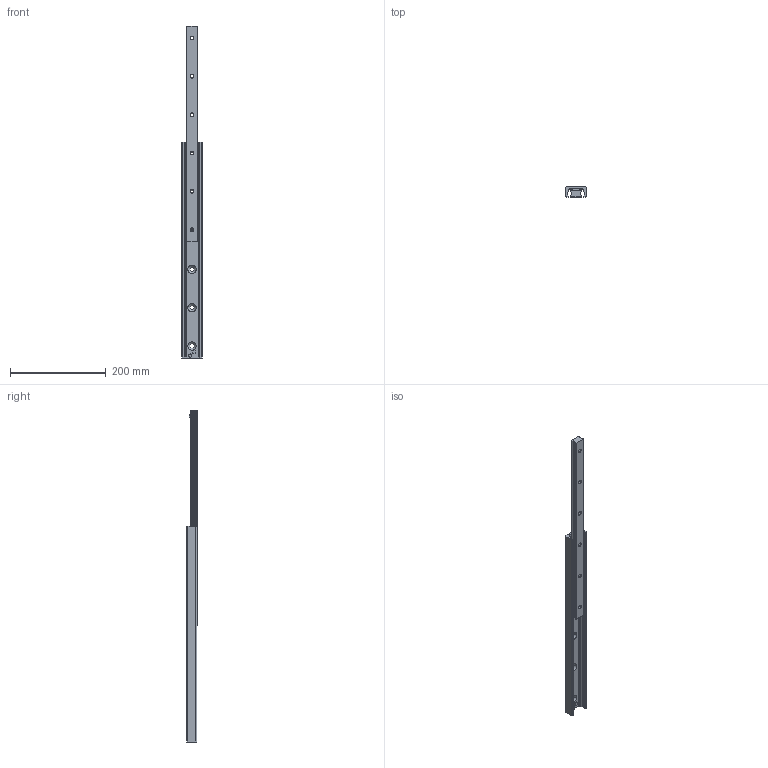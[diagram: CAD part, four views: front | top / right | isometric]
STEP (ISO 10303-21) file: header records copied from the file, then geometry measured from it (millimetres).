
FILE_DESCRIPTION(('STEP AP214'),'1');
FILE_NAME('rail_asn43-450_01.stp','2017-06-06T10:18:31',('TraceParts'),('TraceParts S.A.'),'Spatial InterOp 3D',' ',' ');
FILE_SCHEMA(('automotive_design'));
Length unit declared in the file: millimetre
Products named in the file (2): rail_asn43-450_01_1; rail_asn43-450_01_2
Bounding box: 43 x 22.01 x 693 mm (x, y, z)
Volume: 274011.1 mm3; surface area: 107076.5 mm2
Topology: 2 solids, 2 shells, 137 faces, 348 edges, 220 vertices
Faces by surface type: cylinder 55, plane 46, cone 36
Entity records: 4218 total; most frequent: DIRECTION 772, CARTESIAN_POINT 707, ORIENTED_EDGE 696, EDGE_CURVE 348, AXIS2_PLACEMENT_3D 285, VERTEX_POINT 220, LINE 202, VECTOR 202
